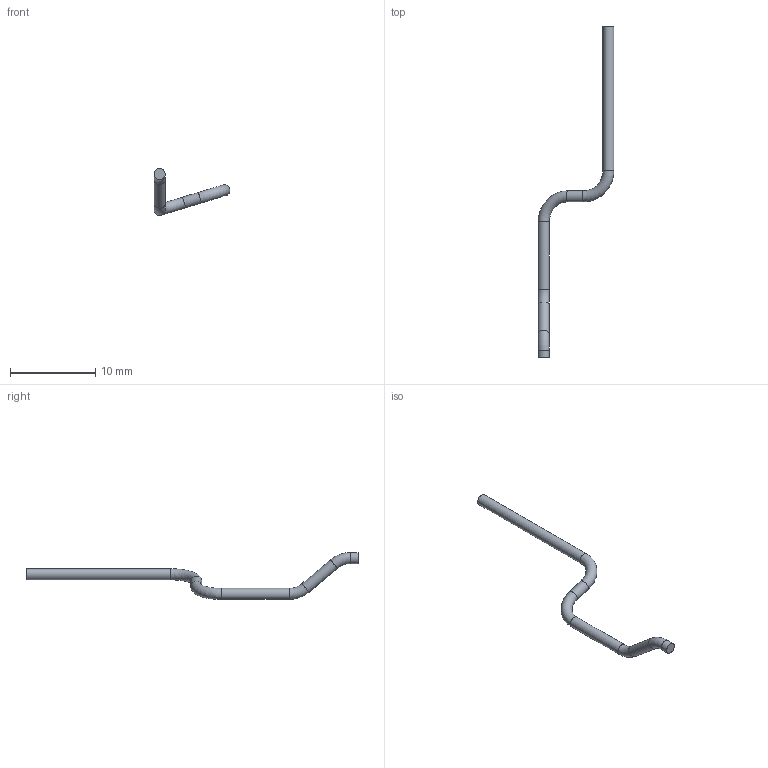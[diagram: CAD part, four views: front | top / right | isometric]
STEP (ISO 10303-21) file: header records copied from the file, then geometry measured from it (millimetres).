
FILE_DESCRIPTION(('Open CASCADE Model'),'2;1');
FILE_NAME('R36_SPEAKER_FACTORY_LEAD_2_J9_BYPASS_OD1p3_R3_FINAL', '2026-09-15T14:38:44',('Author'),('Open CASCADE'), 'Open CASCADE STEP processor 7.9','build123d','Unknown');
FILE_SCHEMA(('AUTOMOTIVE_DESIGN { 1 0 10303 214 1 1 1 1 }'));
Length unit declared in the file: millimetre
Products named in the file (1): R36_SPEAKER_FACTORY_LEAD_2_J9_BYPASS_OD1p3_R3_FINAL
Bounding box: 8.9 x 39 x 5.5 mm (x, y, z)
Volume: 60.7 mm3; surface area: 189.4 mm2
Topology: 1 solids, 1 shells, 11 faces, 19 edges, 10 vertices
Faces by surface type: cylinder 5, torus 4, plane 2
Full cylindrical faces by diameter (mm): 1.3 x5
Entity records: 503 total; most frequent: CARTESIAN_POINT 96, DIRECTION 78, ORIENTED_EDGE 38, PCURVE 38, DEFINITIONAL_REPRESENTATION 38, AXIS2_PLACEMENT_3D 26, LINE 24, VECTOR 24
